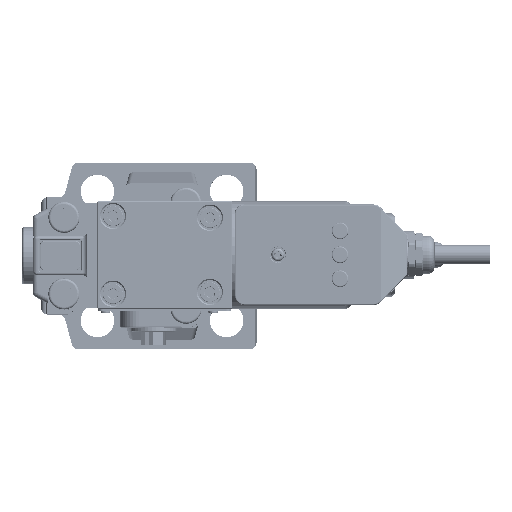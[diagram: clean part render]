
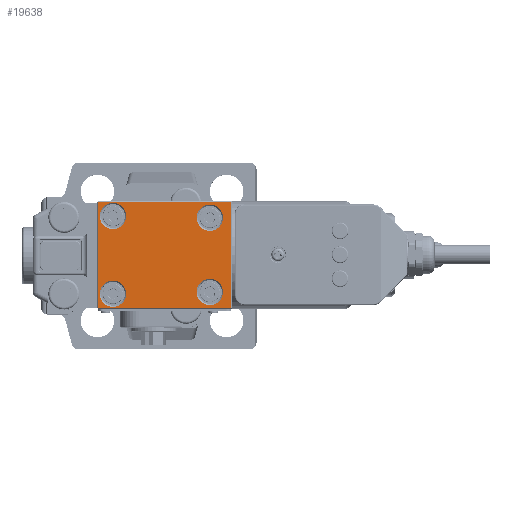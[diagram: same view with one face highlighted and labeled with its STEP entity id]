
A CAD part, top view. The second image highlights one B-rep face of the part: STEP entity #19638.
In plain terms, the highlighted planar face has unit normal (0, 0, 1).
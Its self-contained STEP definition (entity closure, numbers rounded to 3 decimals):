
#6961=LINE('',#121156,#10607);
#6962=LINE('',#121159,#10608);
#6963=LINE('',#121161,#10609);
#6964=LINE('',#121163,#10610);
#10607=VECTOR('',#62762,1.);
#10608=VECTOR('',#62763,1.);
#10609=VECTOR('',#62764,1.);
#10610=VECTOR('',#62765,1.);
#14281=PLANE('',#57073);
#16002=FACE_BOUND('',#25971,.T.);
#16003=FACE_BOUND('',#25972,.T.);
#16004=FACE_BOUND('',#25973,.T.);
#16005=FACE_BOUND('',#25974,.T.);
#16006=FACE_BOUND('',#25975,.T.);
#17588=CIRCLE('',#57069,5.5);
#17589=CIRCLE('',#57070,5.5);
#17590=CIRCLE('',#57071,5.5);
#17591=CIRCLE('',#57072,5.5);
#19638=ADVANCED_FACE('',(#16002,#16003,#16004,#16005,#16006),#14281,.F.);
#25971=EDGE_LOOP('',(#31073));
#25972=EDGE_LOOP('',(#31074));
#25973=EDGE_LOOP('',(#31075));
#25974=EDGE_LOOP('',(#31076));
#25975=EDGE_LOOP('',(#31077,#31078,#31079,#31080));
#31073=ORIENTED_EDGE('',*,*,#48937,.T.);
#31074=ORIENTED_EDGE('',*,*,#48938,.T.);
#31075=ORIENTED_EDGE('',*,*,#48939,.T.);
#31076=ORIENTED_EDGE('',*,*,#48940,.T.);
#31077=ORIENTED_EDGE('',*,*,#48941,.T.);
#31078=ORIENTED_EDGE('',*,*,#48942,.T.);
#31079=ORIENTED_EDGE('',*,*,#48943,.T.);
#31080=ORIENTED_EDGE('',*,*,#48944,.T.);
#43883=VERTEX_POINT('',#121149);
#43884=VERTEX_POINT('',#121151);
#43885=VERTEX_POINT('',#121153);
#43886=VERTEX_POINT('',#121155);
#43887=VERTEX_POINT('',#121157);
#43888=VERTEX_POINT('',#121158);
#43889=VERTEX_POINT('',#121160);
#43890=VERTEX_POINT('',#121162);
#48937=EDGE_CURVE('',#43883,#43883,#17588,.T.);
#48938=EDGE_CURVE('',#43884,#43884,#17589,.T.);
#48939=EDGE_CURVE('',#43885,#43885,#17590,.T.);
#48940=EDGE_CURVE('',#43886,#43886,#17591,.T.);
#48941=EDGE_CURVE('',#43887,#43888,#6961,.T.);
#48942=EDGE_CURVE('',#43888,#43889,#6962,.T.);
#48943=EDGE_CURVE('',#43889,#43890,#6963,.T.);
#48944=EDGE_CURVE('',#43890,#43887,#6964,.T.);
#57069=AXIS2_PLACEMENT_3D('',#121148,#62754,#62755);
#57070=AXIS2_PLACEMENT_3D('',#121150,#62756,#62757);
#57071=AXIS2_PLACEMENT_3D('',#121152,#62758,#62759);
#57072=AXIS2_PLACEMENT_3D('',#121154,#62760,#62761);
#57073=AXIS2_PLACEMENT_3D('',#121164,#62766,#62767);
#62754=DIRECTION('',(0.,0.,-1.));
#62755=DIRECTION('',(0.,1.,0.));
#62756=DIRECTION('',(0.,0.,-1.));
#62757=DIRECTION('',(0.,1.,0.));
#62758=DIRECTION('',(0.,0.,-1.));
#62759=DIRECTION('',(0.,1.,0.));
#62760=DIRECTION('',(0.,0.,-1.));
#62761=DIRECTION('',(0.,1.,0.));
#62762=DIRECTION('',(1.,0.,0.));
#62763=DIRECTION('',(0.,1.,0.));
#62764=DIRECTION('',(-1.,0.,0.));
#62765=DIRECTION('',(0.,-1.,0.));
#62766=DIRECTION('',(0.,0.,-1.));
#62767=DIRECTION('',(0.,1.,0.));
#121148=CARTESIAN_POINT('',(611.378,65.901,128.139));
#121149=CARTESIAN_POINT('',(611.378,71.401,128.14));
#121150=CARTESIAN_POINT('',(611.378,34.901,128.136));
#121151=CARTESIAN_POINT('',(611.378,40.401,128.136));
#121152=CARTESIAN_POINT('',(570.878,34.151,128.136));
#121153=CARTESIAN_POINT('',(570.878,39.651,128.136));
#121154=CARTESIAN_POINT('',(570.878,66.651,128.139));
#121155=CARTESIAN_POINT('',(570.878,72.151,128.14));
#121156=CARTESIAN_POINT('',(620.778,28.401,128.135));
#121157=CARTESIAN_POINT('',(564.778,28.401,128.135));
#121158=CARTESIAN_POINT('',(620.278,28.401,128.135));
#121159=CARTESIAN_POINT('',(620.278,72.401,128.14));
#121160=CARTESIAN_POINT('',(620.278,72.401,128.14));
#121161=CARTESIAN_POINT('',(564.278,72.401,128.14));
#121162=CARTESIAN_POINT('',(564.778,72.401,128.14));
#121163=CARTESIAN_POINT('',(564.778,27.901,128.135));
#121164=CARTESIAN_POINT('',(499.593,50.401,128.138));
